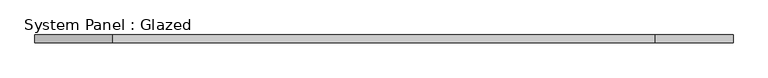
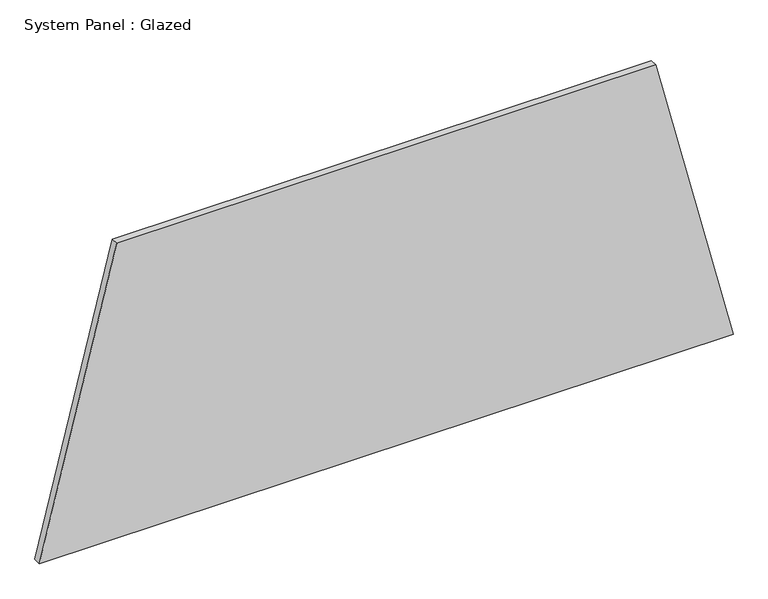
"""IFC4 building model written with IfcOpenShell, lengths in millimetres: plate geometry, System Panel : Glazed."""

from ifc_helpers import new_model, si_unit, frame, origin, place, context, project, spatial, polyline, outline, extrude, source, transform, mapped, element, save


def system_panel_glazed_364f3b73(model_context):
    return source(origin(), model_context, "Body", "SweptSolid", [
        extrude(outline(polyline([(0.0, -1152.3500512), (0.0, 1152.3500512), (1035.3734654, 895.3208171), (1035.3734654, -895.3208171), (0.0, -1152.3500512)])), frame((0.0, -44.45, 0.0), z_axis=(0.0, 1.0, 0.0), x_axis=(0.0, 0.0, 1.0)), (0.0, 0.0, 1.0), 25.4),
    ])


if __name__ == "__main__":
    model = new_model("IFC4")
    model_context = context("Model", 3, world=origin())
    ifc_project = project(units=[si_unit("LENGTHUNIT", "METRE", prefix="MILLI")], contexts=[model_context])
    site = spatial("IfcSite", under=ifc_project)
    building = spatial("IfcBuilding", under=site)
    placement = place(None, origin())
    system_panel_glazed_shape = system_panel_glazed_364f3b73(model_context)
    element("IfcPlate", 1, ObjectType="System Panel : Glazed", at=placement, inside=building, context=model_context, shape_type="MappedRepresentation", body=[
        mapped(system_panel_glazed_shape, transform((0.0, 0.0, 0.0), x_axis=(1.0, 0.0, 0.0), y_axis=(0.0, 1.0, 0.0), z_axis=(0.0, 0.0, 1.0))),
    ])
    save(model, "model.ifc")
